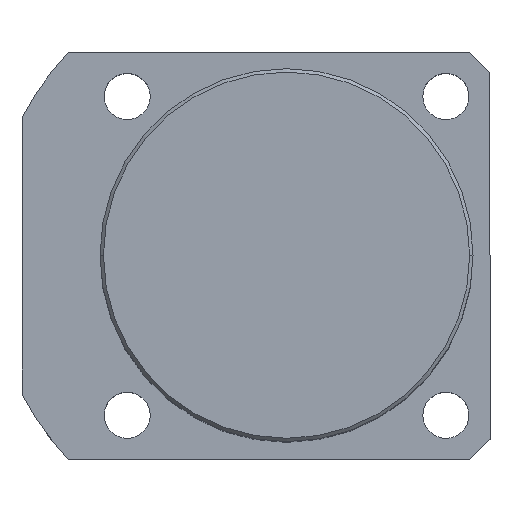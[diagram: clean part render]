
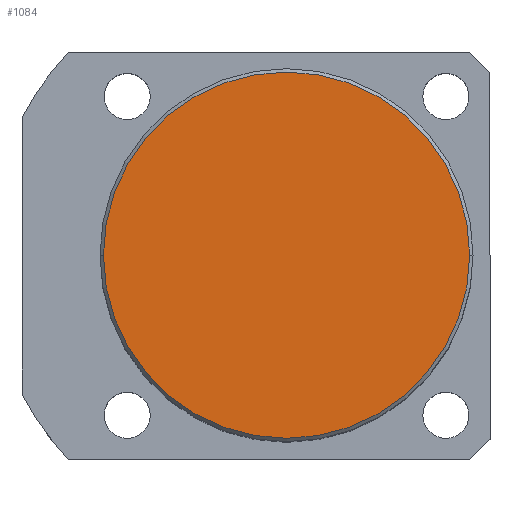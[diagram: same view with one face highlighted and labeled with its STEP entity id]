
A CAD part, top view. The second image highlights one B-rep face of the part: STEP entity #1084.
In plain terms, the highlighted planar face has unit normal (0, 0, 1).
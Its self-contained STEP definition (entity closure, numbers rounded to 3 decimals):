
#262 = ORIENTED_EDGE ( 'NONE', *, *, #1604, .T. ) ;
#810 = CIRCLE ( 'NONE', #3626, 27. ) ;
#991 = CARTESIAN_POINT ( 'NONE',  ( -27., 0., 70. ) ) ;
#1084 = ADVANCED_FACE ( 'NONE', ( #1209 ), #4288, .T. ) ;
#1209 = FACE_OUTER_BOUND ( 'NONE', #2683, .T. ) ;
#1604 = EDGE_CURVE ( 'NONE', #4563, #2175, #810, .T. ) ;
#1718 = CARTESIAN_POINT ( 'NONE',  ( 0., 0., 70. ) ) ;
#1903 = DIRECTION ( 'NONE',  ( 0., 0., 1. ) ) ;
#1979 = ORIENTED_EDGE ( 'NONE', *, *, #2019, .T. ) ;
#2019 = EDGE_CURVE ( 'NONE', #2175, #4563, #2138, .T. ) ;
#2097 = DIRECTION ( 'NONE',  ( 1., 0., 0. ) ) ;
#2138 = CIRCLE ( 'NONE', #2916, 27. ) ;
#2175 = VERTEX_POINT ( 'NONE', #991 ) ;
#2308 = CARTESIAN_POINT ( 'NONE',  ( 0., 0., 70. ) ) ;
#2683 = EDGE_LOOP ( 'NONE', ( #1979, #262 ) ) ;
#2711 = DIRECTION ( 'NONE',  ( 1., 0., 0. ) ) ;
#2916 = AXIS2_PLACEMENT_3D ( 'NONE', #1718, #4438, #2097 ) ;
#3404 = AXIS2_PLACEMENT_3D ( 'NONE', #4239, #1903, #4635 ) ;
#3626 = AXIS2_PLACEMENT_3D ( 'NONE', #2308, #5064, #2711 ) ;
#4239 = CARTESIAN_POINT ( 'NONE',  ( 0., 0., 70. ) ) ;
#4288 = PLANE ( 'NONE',  #3404 ) ;
#4434 = CARTESIAN_POINT ( 'NONE',  ( 27., 0., 70. ) ) ;
#4438 = DIRECTION ( 'NONE',  ( 0., 0., 1. ) ) ;
#4563 = VERTEX_POINT ( 'NONE', #4434 ) ;
#4635 = DIRECTION ( 'NONE',  ( 1., 0., 0. ) ) ;
#5064 = DIRECTION ( 'NONE',  ( 0., 0., 1. ) ) ;
